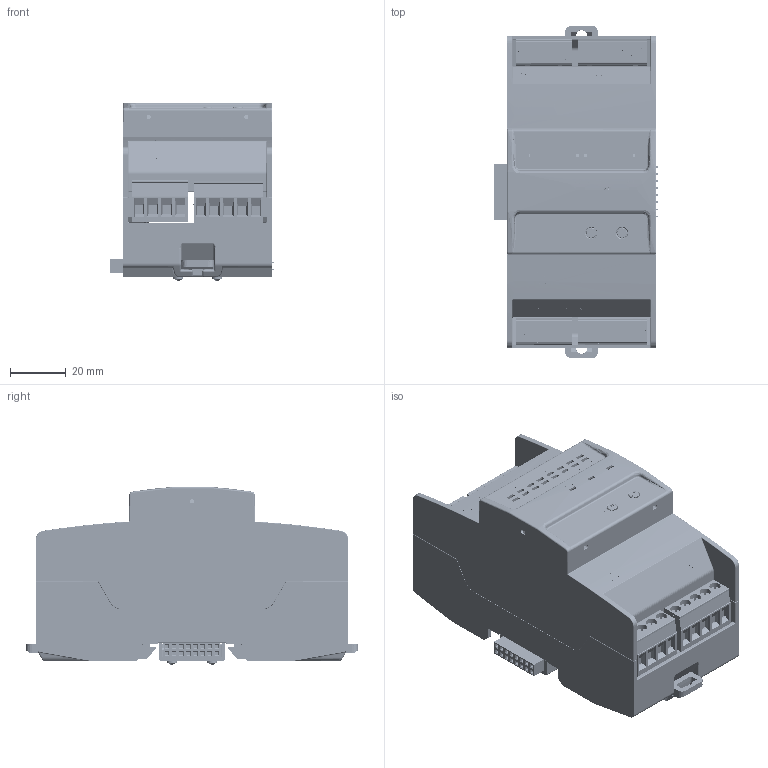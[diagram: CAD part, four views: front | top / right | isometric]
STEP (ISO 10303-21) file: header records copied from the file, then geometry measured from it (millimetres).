
FILE_DESCRIPTION (( 'STEP AP214' ), '1' );
FILE_NAME ('DI-16.STEP', '2020-11-06T11:25:44', ( '' ), ( '' ), 'SwSTEP 2.0', 'SolidWorks 2018', '' );
FILE_SCHEMA (( 'AUTOMOTIVE_DESIGN' ));
Length unit declared in the file: millimetre
Products named in the file (1): DI-16
Bounding box: 58.87 x 119 x 64.1 mm (x, y, z)
Volume: 81598.9 mm3; surface area: 88172.1 mm2
Topology: 11 solids, 11 shells, 9778 faces, 24906 edges, 15382 vertices
Faces by surface type: plane 4944, cylinder 2426, bspline 1505, torus 525, sphere 308, cone 70
Full cylindrical faces by diameter (mm): 0.5 x20, 0.609 x4, 1.2 x16, 1.4 x18, 1.5 x6, 1.8 x2, 2.2 x4, 2.8 x14, 3.5 x4, 3.783 x18, 4 x26, 5.5 x4, 6 x4, 7 x2
Entity records: 337235 total; most frequent: CARTESIAN_POINT 114429, ORIENTED_EDGE 48864, DIRECTION 41624, EDGE_CURVE 24432, VERTEX_POINT 15327, LINE 14482, VECTOR 14482, AXIS2_PLACEMENT_3D 13571
